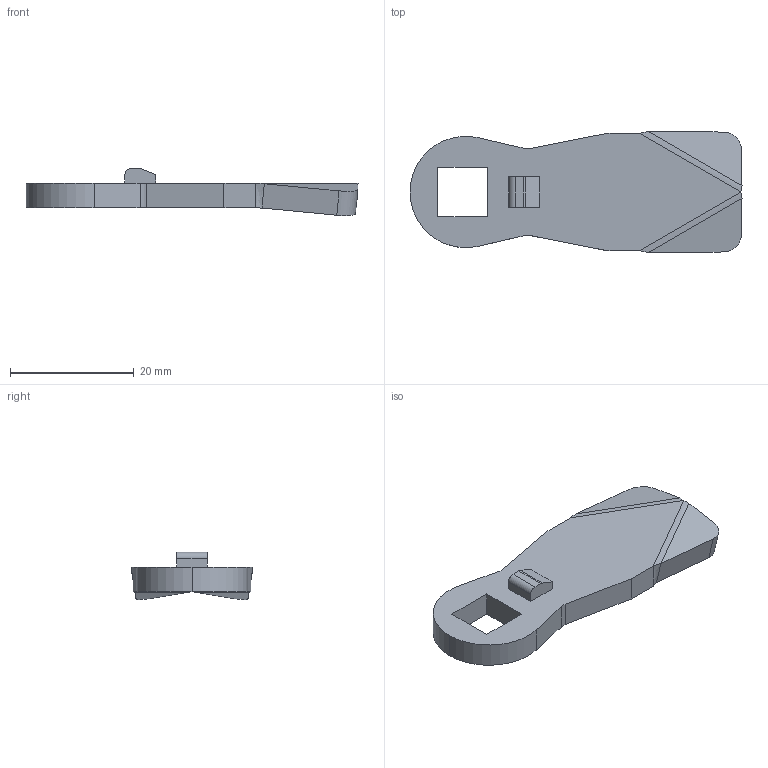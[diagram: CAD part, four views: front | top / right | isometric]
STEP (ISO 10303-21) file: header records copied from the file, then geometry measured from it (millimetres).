
FILE_DESCRIPTION (( 'STEP AP214' ), '1' );
FILE_NAME ('1C.J-175.18.45.STEP', '2012-10-24T08:55:43', ( 'lukasz' ), ( 'ATC' ), 'SwSTEP 2.0', 'SolidWorks 2010', '' );
FILE_SCHEMA (( 'AUTOMOTIVE_DESIGN' ));
Length unit declared in the file: millimetre
Products named in the file (1): 1C.J-175.18.45
Bounding box: 53.67 x 19.58 x 7.65 mm (x, y, z)
Volume: 3381.7 mm3; surface area: 2416.9 mm2
Topology: 1 solids, 1 shells, 48 faces, 116 edges, 72 vertices
Faces by surface type: plane 32, cylinder 12, bspline 4
Entity records: 1462 total; most frequent: CARTESIAN_POINT 337, ORIENTED_EDGE 232, DIRECTION 206, EDGE_CURVE 116, LINE 84, VECTOR 84, VERTEX_POINT 72, AXIS2_PLACEMENT_3D 61
